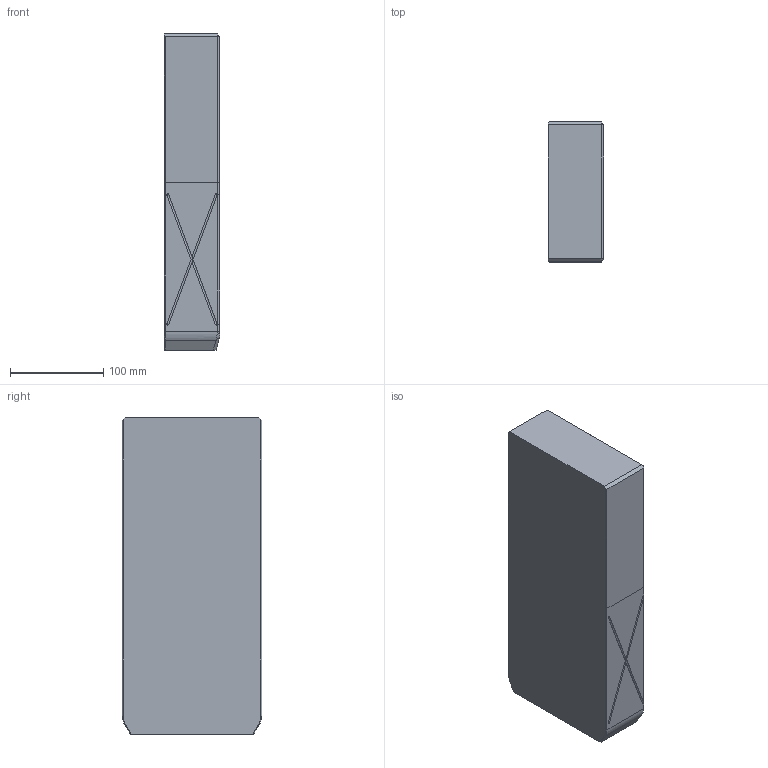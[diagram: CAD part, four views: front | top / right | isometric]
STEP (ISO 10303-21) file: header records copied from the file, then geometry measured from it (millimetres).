
FILE_DESCRIPTION((''),'2;1');
FILE_NAME('','2010-08-30T17:57:51+09:00',('misumi'),(''),'M/STEP i/f 1R2-14','CADmeister v5.1','');
FILE_SCHEMA(('AUTOMOTIVE_DESIGN'));
Length unit declared in the file: millimetre
Products named in the file (1): GW150-180-340
Bounding box: 60 x 150 x 340 mm (x, y, z)
Volume: 3038164.5 mm3; surface area: 159360 mm2
Topology: 1 solids, 1 shells, 74 faces, 199 edges, 117 vertices
Faces by surface type: plane 37, cylinder 17, revolution 12, bspline 6, cone 2
Entity records: 3484 total; most frequent: CARTESIAN_POINT 811, ORIENTED_EDGE 374, DIRECTION 355, COLOUR_RGB 202, CURVE_STYLE 195, PRESENTATION_STYLE_ASSIGNMENT 194, OVER_RIDING_STYLED_ITEM 193, EDGE_CURVE 187
